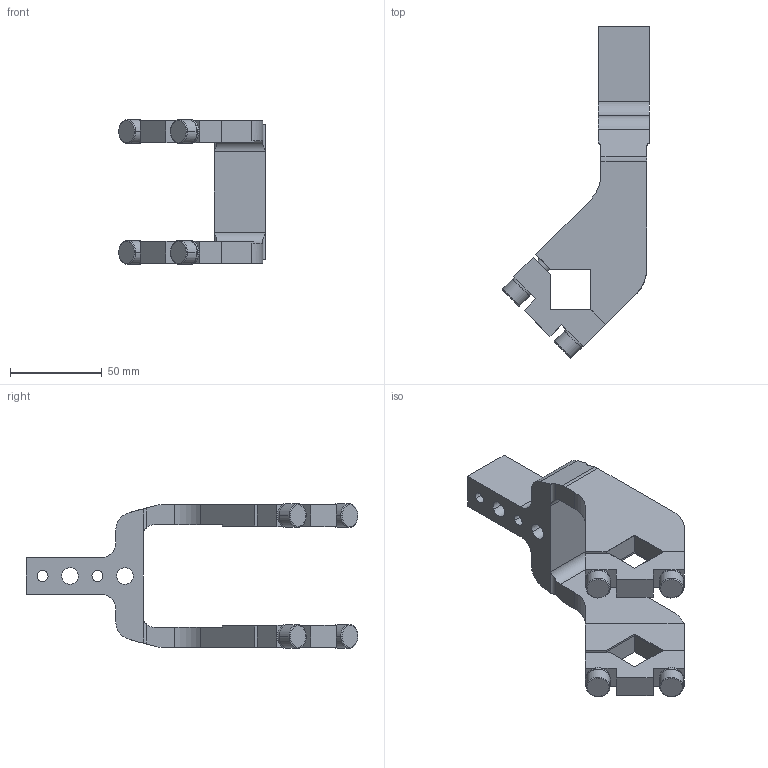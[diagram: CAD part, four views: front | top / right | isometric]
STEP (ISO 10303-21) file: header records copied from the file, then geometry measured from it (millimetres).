
FILE_DESCRIPTION(('CATIA V5 STEP Exchange'),'2;1');
FILE_NAME('E:\clampact\CLAMPACT\clampact\catalog\Clampact Arm\Arm 3D\Clampact Arm\arm_K63_15_A10_Clampact.stp','2022-12-06T08:02:52+00:00',('none'),('none'),'CATIA Version 5 Release 19 SP 6 (IN-10)','CATIA V5 STEP AP203','none');
FILE_SCHEMA(('CONFIG_CONTROL_DESIGN'));
Length unit declared in the file: millimetre
Products named in the file (1): K63_15_A10_Clampact_柯莱普
Bounding box: 80.22 x 181.22 x 79 mm (x, y, z)
Volume: 148202 mm3; surface area: 41938.6 mm2
Topology: 1 solids, 5 shells, 184 faces, 539 edges, 379 vertices
Faces by surface type: plane 96, cylinder 56, cone 20, torus 12
Entity records: 5863 total; most frequent: CARTESIAN_POINT 1362, ORIENTED_EDGE 916, DIRECTION 747, EDGE_CURVE 458, VECTOR 328, LINE 328, AXIS2_PLACEMENT_3D 294, VERTEX_POINT 292
